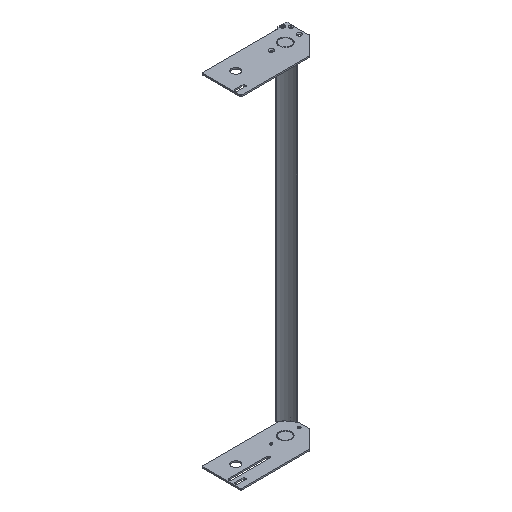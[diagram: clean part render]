
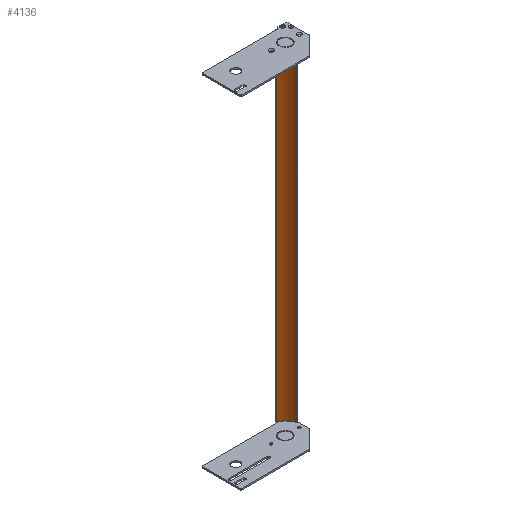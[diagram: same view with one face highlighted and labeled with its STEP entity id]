
A CAD part, isometric view. The second image highlights one B-rep face of the part: STEP entity #4136.
In plain terms, the highlighted cylindrical face has radius 40.64 mm (diameter 81.28 mm), a partial arc.
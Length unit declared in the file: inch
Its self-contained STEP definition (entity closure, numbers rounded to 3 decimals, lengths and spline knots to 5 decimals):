
#157 = CARTESIAN_POINT ( 'NONE',  ( -1.00032, 0.11675, -15.118 ) ) ;
#663 = CARTESIAN_POINT ( 'NONE',  ( -0.05742, 0.98126, 15.118 ) ) ;
#738 = AXIS2_PLACEMENT_3D ( 'NONE', #1932, #2336, #5190 ) ;
#915 = EDGE_LOOP ( 'NONE', ( #975, #1263, #3241, #1320 ) ) ;
#975 = ORIENTED_EDGE ( 'NONE', *, *, #3897, .T. ) ;
#1263 = ORIENTED_EDGE ( 'NONE', *, *, #4502, .F. ) ;
#1320 = ORIENTED_EDGE ( 'NONE', *, *, #4894, .T. ) ;
#1629 = DIRECTION ( 'NONE',  ( 0., 0., -1. ) ) ;
#1932 = CARTESIAN_POINT ( 'NONE',  ( -1.52, 1.63, 15.118 ) ) ;
#2170 = VERTEX_POINT ( 'NONE', #663 ) ;
#2287 = VECTOR ( 'NONE', #1629, 39.37008 ) ;
#2336 = DIRECTION ( 'NONE',  ( 0., 0., -1. ) ) ;
#2415 = CYLINDRICAL_SURFACE ( 'NONE', #738, 1.6 ) ;
#2668 = LINE ( 'NONE', #4545, #3899 ) ;
#2909 = DIRECTION ( 'NONE',  ( -1., 0., 0. ) ) ;
#2948 = DIRECTION ( 'NONE',  ( 0., 0., -1. ) ) ;
#2968 = CARTESIAN_POINT ( 'NONE',  ( -1.52, 1.63, -15.118 ) ) ;
#2994 = EDGE_CURVE ( 'NONE', #2170, #4147, #4411, .T. ) ;
#3002 = CIRCLE ( 'NONE', #3580, 1.6 ) ;
#3241 = ORIENTED_EDGE ( 'NONE', *, *, #2994, .F. ) ;
#3287 = VERTEX_POINT ( 'NONE', #157 ) ;
#3379 = FACE_OUTER_BOUND ( 'NONE', #915, .T. ) ;
#3580 = AXIS2_PLACEMENT_3D ( 'NONE', #2968, #4207, #4167 ) ;
#3728 = DIRECTION ( 'NONE',  ( 0., 0., -1. ) ) ;
#3897 = EDGE_CURVE ( 'NONE', #5160, #3287, #3002, .T. ) ;
#3899 = VECTOR ( 'NONE', #3728, 39.37008 ) ;
#3948 = CARTESIAN_POINT ( 'NONE',  ( -1.00032, 0.11675, 15.118 ) ) ;
#4136 = ADVANCED_FACE ( 'NONE', ( #3379 ), #2415, .F. ) ;
#4147 = VERTEX_POINT ( 'NONE', #3948 ) ;
#4167 = DIRECTION ( 'NONE',  ( -1., 0., 0. ) ) ;
#4180 = LINE ( 'NONE', #4523, #2287 ) ;
#4207 = DIRECTION ( 'NONE',  ( 0., 0., -1. ) ) ;
#4238 = CARTESIAN_POINT ( 'NONE',  ( -0.05742, 0.98126, -15.118 ) ) ;
#4411 = CIRCLE ( 'NONE', #4776, 1.6 ) ;
#4502 = EDGE_CURVE ( 'NONE', #4147, #3287, #2668, .T. ) ;
#4523 = CARTESIAN_POINT ( 'NONE',  ( -0.05742, 0.98126, 15.118 ) ) ;
#4528 = CARTESIAN_POINT ( 'NONE',  ( -1.52, 1.63, 15.118 ) ) ;
#4545 = CARTESIAN_POINT ( 'NONE',  ( -1.00032, 0.11675, 15.118 ) ) ;
#4776 = AXIS2_PLACEMENT_3D ( 'NONE', #4528, #2948, #2909 ) ;
#4894 = EDGE_CURVE ( 'NONE', #2170, #5160, #4180, .T. ) ;
#5160 = VERTEX_POINT ( 'NONE', #4238 ) ;
#5190 = DIRECTION ( 'NONE',  ( -1., 0., 0. ) ) ;
